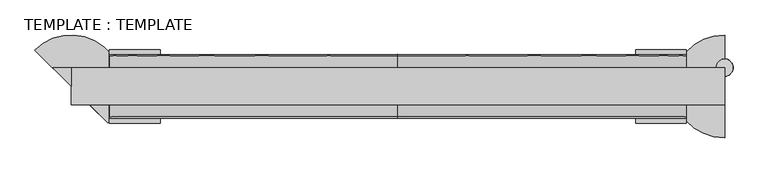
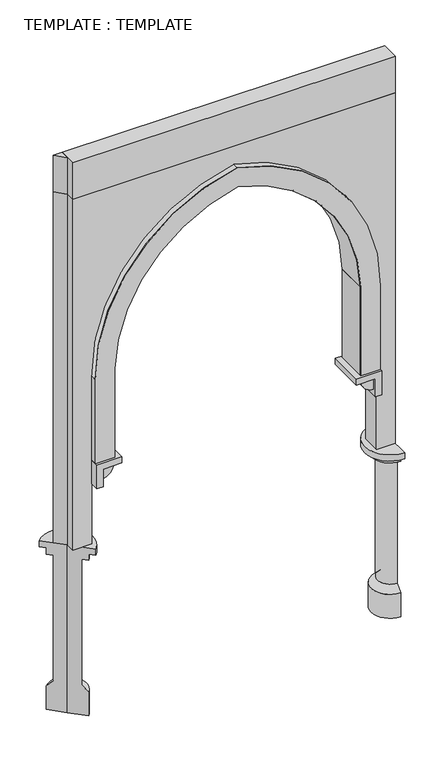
"""IFC4 building model written with IfcOpenShell, lengths in millimetres: plate geometry, TEMPLATE : TEMPLATE."""

from ifc_helpers import new_model, si_unit, point, frame, frame_2d, origin, place, context, project, spatial, polyline, circle_curve, ellipse_curve, trimmed, segment, composite_curve, outline, extrude, source, transform, mapped, element, save
from ifc_brep_helpers import plane_surface, cylinder_surface, revolved_surface, advanced_brep


def template_template_87ff5dd4(model_context):
    return source(origin(), model_context, "Body", "SolidModel", [
        extrude(outline(polyline([(-1250.0, 0.0), (-1321.2450521, 71.2450521), (-1250.0, 71.2450521), (-1250.0, 0.0)])), frame((0.0, 0.0, 4250.0), z_axis=(0.0, 0.0, 1.0), x_axis=(1.0, 0.0, 0.0)), (0.0, 0.0, 1.0), 300.0),
        extrude(outline(polyline([(1250.0, -71.2450521), (-1250.0, -71.2450521), (-1250.0, 71.2450521), (1250.0, 71.2450521), (1250.0, -71.2450521)])), frame((0.0, 0.0, 4250.0), z_axis=(0.0, 0.0, 1.0), x_axis=(1.0, 0.0, 0.0)), (0.0, 0.0, 1.0), 300.0),
        advanced_brep(
        [(1250.0, 38.7797743, 4103.90625), (1250.0, 103.7103299, 4103.90625)],
        [
            (0, 1, circle_curve(frame((1250.0, 71.2450521, 4103.90625), z_axis=(0.0, 0.0, -1.0), x_axis=(-1.0, 0.0, 0.0)), 32.4652778)),
            (1, 0),
            (1, 0, circle_curve(frame((1250.0, 71.2450521, 4103.90625), z_axis=(0.0, 0.0, -1.0), x_axis=(1.0, 0.0, 0.0)), 32.4652778)),
        ],
        [
            plane_surface(frame((1250.0, -122.2362565, 4103.90625), z_axis=(0.0, 0.0, -1.0), x_axis=(-1.0, 0.0, 0.0))),
            plane_surface(frame((1250.0, -122.2362565, 4103.90625), z_axis=(0.0, 0.0, -1.0), x_axis=(1.0, 0.0, 0.0))),
            revolved_surface(trimmed(ellipse_curve(frame((1250.0, 71.2450521, 4103.90625), z_axis=(0.0, 0.0, 1.0), x_axis=(-1.0, 0.0, 0.0)), 32.4652778, 32.4652778), [point((1250.0, 103.7103299, 4103.90625))], [point((1250.0, 38.7797743, 4103.90625))], True, "CARTESIAN"), (1250.0, -122.2362565, 4103.90625), (0.0, -1.0, 0.0)),
        ],
        [
            (0, [[1, 2]]),
            (1, [[3, -2]]),
            (2, [[-1, -3]]),
        ],
    ),
        extrude(outline(composite_curve([segment(trimmed(circle_curve(frame_2d((1250.0, 71.2450521)), 32.4652778), [point((1250.0, 103.7103299))], [point((1250.0, 38.7797743))], False, "CARTESIAN"), True, "CONTINUOUS"), segment(trimmed(circle_curve(frame_2d((1250.0, 71.2450521)), 32.4652778), [point((1250.0, 38.7797743))], [point((1250.0, 103.7103299))], False, "CARTESIAN"), True, "CONTINUOUS")], self_intersect=False)), frame((0.0, 0.0, 1375.0), z_axis=(0.0, 0.0, 1.0), x_axis=(1.0, 0.0, 0.0)), (0.0, 0.0, 1.0), 2728.90625),
        extrude(outline(composite_curve([segment(polyline([(2062.5, -1103.90625), (2062.5, -952.8125), (2789.7201638, -952.8125)]), True, "CONTINUOUS"), segment(trimmed(circle_curve(frame_2d((2770.9553186, 249.8536177)), 1202.8125), [point((2789.7201638, -952.8125))], [point((3947.5313169, 0.0))], True, "CARTESIAN"), True, "CONTINUOUS"), segment(trimmed(circle_curve(frame_2d((2770.9553186, -249.8536177)), 1202.8125), [point((3947.5313169, 0.0))], [point((2789.7201638, 952.8125))], True, "CARTESIAN"), True, "CONTINUOUS"), segment(polyline([(2789.7201638, 952.8125), (2062.5, 952.8125), (2062.5, 1103.90625), (2751.0466695, 1103.90625)]), True, "CONTINUOUS"), segment(trimmed(circle_curve(frame_2d((2770.9553186, -249.8536177)), 1353.90625), [point((2751.0466695, 1103.90625))], [point((4101.6075284, 0.0))], False, "CARTESIAN"), True, "CONTINUOUS"), segment(trimmed(circle_curve(frame_2d((2770.9553186, 249.8536177)), 1353.90625), [point((4101.6075284, 0.0))], [point((2751.0466695, -1103.90625))], False, "CARTESIAN"), True, "CONTINUOUS"), segment(polyline([(2751.0466695, -1103.90625), (2062.5, -1103.90625)]), True, "CONTINUOUS")], self_intersect=False)), frame((0.0, -121.8675781, 0.0), z_axis=(0.0, 1.0, 0.0), x_axis=(0.0, 0.0, 1.0)), (0.0, 0.0, 1.0), 5.0),
        extrude(outline(polyline([(-1250.0, 0.0), (-1321.2450521, 71.2450521), (-1250.0, 71.2450521), (-1250.0, 0.0)])), frame((0.0, 0.0, 1375.0), z_axis=(0.0, 0.0, 1.0), x_axis=(1.0, 0.0, 0.0)), (0.0, 0.0, 1.0), 2875.0),
        extrude(outline(composite_curve([segment(trimmed(circle_curve(frame_2d((2770.9553186, -249.8536177)), 1207.8125), [point((2789.7591277, 957.8125))], [point((3952.642335, 0.0))], False, "CARTESIAN"), True, "CONTINUOUS"), segment(trimmed(circle_curve(frame_2d((2770.9553186, 249.8536177)), 1207.8125), [point((3952.642335, 0.0))], [point((2789.7591277, -957.8125))], False, "CARTESIAN"), True, "CONTINUOUS"), segment(polyline([(2789.7591277, -957.8125), (2789.6812853, -952.813106)]), True, "CONTINUOUS"), segment(trimmed(circle_curve(frame_2d((2770.9553186, 249.8536177)), 1202.8125), [point((2789.6812853, -952.813106))], [point((3947.5313169, 0.0))], True, "CARTESIAN"), True, "CONTINUOUS"), segment(trimmed(circle_curve(frame_2d((2770.9553186, -249.8536177)), 1202.8125), [point((3947.5313169, 0.0))], [point((2789.6812853, 952.813106))], True, "CARTESIAN"), True, "CONTINUOUS"), segment(polyline([(2789.6812853, 952.813106), (2789.7591277, 957.8125)]), True, "CONTINUOUS")], self_intersect=False)), frame((0.0, -116.8675781, 0.0), z_axis=(0.0, 1.0, 0.0), x_axis=(0.0, 0.0, 1.0)), (0.0, 0.0, 1.0), 238.7351563),
        extrude(outline(polyline([(957.8125, -116.8675781), (952.8125, -116.8675781), (952.8125, 121.8675781), (957.8125, 121.8675781), (957.8125, -116.8675781)])), frame((0.0, 0.0, 2062.5), z_axis=(0.0, 0.0, 1.0), x_axis=(1.0, 0.0, 0.0)), (0.0, 0.0, 1.0), 727.2591277),
        extrude(outline(polyline([(-952.8125, -116.8675781), (-957.8125, -116.8675781), (-957.8125, 121.8675781), (-952.8125, 121.8675781), (-952.8125, -116.8675781)])), frame((0.0, 0.0, 2062.5), z_axis=(0.0, 0.0, 1.0), x_axis=(1.0, 0.0, 0.0)), (0.0, 0.0, 1.0), 727.2591277),
        extrude(outline(composite_curve([segment(polyline([(2013.8020833, 1055.2083333), (2013.8020833, 957.8125)]), True, "CONTINUOUS"), segment(trimmed(circle_curve(frame_2d((2013.8020833, 1055.2083333)), 97.3958333), [point((2013.8020833, 957.8125))], [point((1916.40625, 1055.2083333))], False, "CARTESIAN"), True, "CONTINUOUS"), segment(polyline([(1916.40625, 1055.2083333), (2013.8020833, 1055.2083333)]), True, "CONTINUOUS")], self_intersect=False)), frame((0.0, -116.8675781, 0.0), z_axis=(0.0, 1.0, 0.0), x_axis=(0.0, 0.0, 1.0)), (0.0, 0.0, 1.0), 238.7351563),
        extrude(outline(composite_curve([segment(polyline([(2013.8020833, -1055.2083333), (1916.40625, -1055.2083333)]), True, "CONTINUOUS"), segment(trimmed(circle_curve(frame_2d((2013.8020833, -1055.2083333)), 97.3958333), [point((1916.40625, -1055.2083333))], [point((2013.8020833, -957.8125))], False, "CARTESIAN"), True, "CONTINUOUS"), segment(polyline([(2013.8020833, -957.8125), (2013.8020833, -1055.2083333)]), True, "CONTINUOUS")], self_intersect=False)), frame((0.0, -116.8675781, 0.0), z_axis=(0.0, 1.0, 0.0), x_axis=(0.0, 0.0, 1.0)), (0.0, 0.0, 1.0), 238.7351563),
        advanced_brep(
        [(-1110.8841065, -139.1158935, 1375.0), (-1250.0, 0.0, 1375.0), (-1250.0, 0.0, 0.0), (-1146.6961187, -103.3038813, 0.0), (-1146.6961187, -103.3038813, 194.7916667), (-1181.1307458, -68.8692542, 245.4375), (-1181.1307458, -68.8692542, 1273.7083333), (-1146.6961187, -103.3038813, 1273.7083333), (-1146.6961187, -103.3038813, 1324.3541667), (-1110.8841065, -139.1158935, 1324.3541667), (-1389.1158935, 139.1158935, 1375.0), (-1389.1158935, 139.1158935, 1324.3541667), (-1353.3038813, 103.3038813, 1324.3541667), (-1353.3038813, 103.3038813, 1273.7083333), (-1318.8692542, 68.8692542, 1273.7083333), (-1318.8692542, 68.8692542, 245.4375), (-1353.3038813, 103.3038813, 194.7916667), (-1353.3038813, 103.3038813, 0.0)],
        [
            (0, 1),
            (1, 2),
            (2, 3),
            (3, 4),
            (4, 5),
            (5, 6),
            (6, 7),
            (7, 8),
            (8, 9),
            (9, 0),
            (10, 11),
            (11, 12),
            (12, 13),
            (13, 14),
            (14, 15),
            (15, 16),
            (16, 17),
            (17, 2),
            (1, 10),
            (10, 0, circle_curve(frame((-1250.0, 0.0, 1375.0), z_axis=(0.0, 0.0, -1.0), x_axis=(0.7071067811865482, -0.707106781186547, 0.0)), 196.7395833)),
            (9, 11, circle_curve(frame((-1250.0, 0.0, 1324.3541667), z_axis=(0.0, 0.0, 1.0), x_axis=(0.7071067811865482, -0.707106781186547, 0.0)), 196.7395833)),
            (8, 12, circle_curve(frame((-1250.0, 0.0, 1324.3541667), z_axis=(0.0, 0.0, 1.0), x_axis=(0.7071067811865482, -0.707106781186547, 0.0)), 146.09375)),
            (7, 13, circle_curve(frame((-1250.0, 0.0, 1273.7083333), z_axis=(0.0, 0.0, 1.0), x_axis=(0.7071067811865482, -0.707106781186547, 0.0)), 146.09375)),
            (6, 14, circle_curve(frame((-1250.0, 0.0, 1273.7083333), z_axis=(0.0, 0.0, 1.0), x_axis=(0.7071067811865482, -0.707106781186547, 0.0)), 97.3958333)),
            (5, 15, circle_curve(frame((-1250.0, 0.0, 245.4375), z_axis=(0.0, 0.0, 1.0), x_axis=(0.7071067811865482, -0.707106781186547, 0.0)), 97.3958333)),
            (4, 16, circle_curve(frame((-1250.0, 0.0, 194.7916667), z_axis=(0.0, 0.0, 1.0), x_axis=(0.7071067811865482, -0.707106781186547, 0.0)), 146.09375)),
            (3, 17, circle_curve(frame((-1250.0, 0.0, 0.0), z_axis=(0.0, 0.0, 1.0), x_axis=(0.7071067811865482, -0.707106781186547, 0.0)), 146.09375)),
        ],
        [
            plane_surface(frame((-1250.0, 0.0, -1400.0), z_axis=(-0.707106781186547, -0.7071067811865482, 0.0), x_axis=(0.7071067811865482, -0.707106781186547, 0.0))),
            plane_surface(frame((-1250.0, 0.0, -1400.0), z_axis=(-0.7071067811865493, -0.7071067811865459, 0.0), x_axis=(-0.7071067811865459, 0.7071067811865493, 0.0))),
            cylinder_surface(frame((-1250.0, 0.0, -1400.0), z_axis=(0.0, 0.0, 1.0), x_axis=(0.7071067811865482, -0.707106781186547, 0.0)), 196.7395833),
            plane_surface(frame((-1250.0, 0.0, 1324.3541667), z_axis=(0.0, 0.0, -1.0000000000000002), x_axis=(0.7071067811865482, -0.707106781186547, 0.0))),
            cylinder_surface(frame((-1250.0, 0.0, -1400.0), z_axis=(0.0, 0.0, 1.0), x_axis=(0.7071067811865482, -0.707106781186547, 0.0)), 146.09375),
            plane_surface(frame((-1250.0, 0.0, 1273.7083333), z_axis=(0.0, 0.0, -1.0000000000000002), x_axis=(0.7071067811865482, -0.707106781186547, 0.0))),
            cylinder_surface(frame((-1250.0, 0.0, -1400.0), z_axis=(0.0, 0.0, 1.0), x_axis=(0.7071067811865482, -0.707106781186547, 0.0)), 97.3958333),
            revolved_surface(polyline([(-1146.6961187, -103.3038813, 194.7916667), (-1181.1307458, -68.8692542, 245.4375)]), (-1250.0, 0.0, -1400.0), (0.0, 0.0, 1.0)),
            plane_surface(frame((-1250.0, 0.0, 0.0), z_axis=(0.0, 0.0, -1.0000000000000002), x_axis=(0.7071067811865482, -0.707106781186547, 0.0))),
            plane_surface(frame((-1250.0, 0.0, 1375.0), z_axis=(0.0, 0.0, 1.0000000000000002), x_axis=(0.7071067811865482, -0.707106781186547, 0.0))),
        ],
        [
            (0, [[1, 2, 3, 4, 5, 6, 7, 8, 9, 10]]),
            (1, [[11, 12, 13, 14, 15, 16, 17, 18, -2, 19]]),
            (2, [[20, -10, 21, -11]]),
            (3, [[-21, -9, 22, -12]]),
            (4, [[-22, -8, 23, -13]]),
            (5, [[-23, -7, 24, -14]]),
            (6, [[-24, -6, 25, -15]]),
            (7, [[-25, -5, 26, -16]]),
            (4, [[-26, -4, 27, -17]]),
            (8, [[-27, -3, -18]]),
            (9, [[-1, -20, -19]]),
        ],
    ),
        extrude(outline(polyline([(2062.5, 1103.90625), (2062.5, 909.1145833), (2013.8020833, 909.1145833), (2013.8020833, 1055.2083333), (1867.7083333, 1055.2083333), (1867.7083333, 1103.90625), (2062.5, 1103.90625)])), frame((0.0, -141.2165365, 0.0), z_axis=(0.0, 1.0, 0.0), x_axis=(0.0, 0.0, 1.0)), (0.0, 0.0, 1.0), 282.4330729),
        extrude(outline(polyline([(2062.5, -1103.90625), (1867.7083333, -1103.90625), (1867.7083333, -1055.2083333), (2013.8020833, -1055.2083333), (2013.8020833, -909.1145833), (2062.5, -909.1145833), (2062.5, -1103.90625)])), frame((0.0, -141.2165365, 0.0), z_axis=(0.0, 1.0, 0.0), x_axis=(0.0, 0.0, 1.0)), (0.0, 0.0, 1.0), 282.4330729),
        advanced_brep(
        [(1250.0, -196.7395833, 1375.0), (1250.0, -196.7395833, 1324.3541667), (1250.0, -146.09375, 1324.3541667), (1250.0, -146.09375, 1273.7083333), (1250.0, -97.3958333, 1273.7083333), (1250.0, -97.3958333, 245.4375), (1250.0, -146.09375, 194.7916667), (1250.0, -146.09375, 0.0), (1250.0, 0.0, 0.0), (1250.0, 0.0, 1375.0), (1250.0, 196.7395833, 1375.0), (1250.0, 146.09375, 0.0), (1250.0, 146.09375, 194.7916667), (1250.0, 97.3958333, 245.4375), (1250.0, 97.3958333, 1273.7083333), (1250.0, 146.09375, 1273.7083333), (1250.0, 146.09375, 1324.3541667), (1250.0, 196.7395833, 1324.3541667)],
        [
            (0, 1),
            (1, 2),
            (2, 3),
            (3, 4),
            (4, 5),
            (5, 6),
            (6, 7),
            (7, 8),
            (8, 9),
            (9, 0),
            (10, 9),
            (8, 11),
            (11, 12),
            (12, 13),
            (13, 14),
            (14, 15),
            (15, 16),
            (16, 17),
            (17, 10),
            (17, 1, circle_curve(frame((1250.0, 0.0, 1324.3541667), z_axis=(0.0, 0.0, 1.0), x_axis=(0.0, -1.0000000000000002, 0.0)), 196.7395833)),
            (0, 10, circle_curve(frame((1250.0, 0.0, 1375.0), z_axis=(0.0, 0.0, -1.0), x_axis=(0.0, -1.0000000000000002, 0.0)), 196.7395833)),
            (16, 2, circle_curve(frame((1250.0, 0.0, 1324.3541667), z_axis=(0.0, 0.0, 1.0), x_axis=(0.0, -1.0000000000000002, 0.0)), 146.09375)),
            (15, 3, circle_curve(frame((1250.0, 0.0, 1273.7083333), z_axis=(0.0, 0.0, 1.0), x_axis=(0.0, -1.0000000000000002, 0.0)), 146.09375)),
            (14, 4, circle_curve(frame((1250.0, 0.0, 1273.7083333), z_axis=(0.0, 0.0, 1.0), x_axis=(0.0, -1.0000000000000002, 0.0)), 97.3958333)),
            (13, 5, circle_curve(frame((1250.0, 0.0, 245.4375), z_axis=(0.0, 0.0, 1.0), x_axis=(0.0, -1.0000000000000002, 0.0)), 97.3958333)),
            (12, 6, circle_curve(frame((1250.0, 0.0, 194.7916667), z_axis=(0.0, 0.0, 1.0), x_axis=(0.0, -1.0000000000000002, 0.0)), 146.09375)),
            (11, 7, circle_curve(frame((1250.0, 0.0, 0.0), z_axis=(0.0, 0.0, 1.0), x_axis=(0.0, -1.0000000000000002, 0.0)), 146.09375)),
        ],
        [
            plane_surface(frame((1250.0, 0.0, -1400.0), z_axis=(1.0, 0.0, 0.0), x_axis=(0.0, -1.0, 0.0))),
            plane_surface(frame((1250.0, 0.0, -1400.0), z_axis=(1.0, 0.0, 0.0), x_axis=(0.0, 1.0, 0.0))),
            cylinder_surface(frame((1250.0, 0.0, -1400.0), z_axis=(0.0, 0.0, -1.0), x_axis=(0.0, -1.0000000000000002, 0.0)), 196.7395833),
            plane_surface(frame((1250.0, 0.0, 1324.3541667), z_axis=(0.0, 0.0, -1.0), x_axis=(0.0, -1.0, 0.0))),
            cylinder_surface(frame((1250.0, 0.0, -1400.0), z_axis=(0.0, 0.0, -1.0), x_axis=(0.0, -1.0000000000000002, 0.0)), 146.09375),
            plane_surface(frame((1250.0, 0.0, 1273.7083333), z_axis=(0.0, 0.0, -1.0), x_axis=(0.0, -1.0, 0.0))),
            cylinder_surface(frame((1250.0, 0.0, -1400.0), z_axis=(0.0, 0.0, -1.0), x_axis=(0.0, -1.0000000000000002, 0.0)), 97.3958333),
            revolved_surface(polyline([(1250.0, -97.3958333, 245.4375), (1250.0, -146.09375, 194.7916667)]), (1250.0, 0.0, -1400.0), (0.0, 0.0, -1.0)),
            plane_surface(frame((1250.0, 0.0, 0.0), z_axis=(0.0, 0.0, -1.0), x_axis=(0.0, -1.0, 0.0))),
            plane_surface(frame((1250.0, 0.0, 1375.0), z_axis=(0.0, 0.0, 1.0), x_axis=(0.0, -1.0, 0.0))),
        ],
        [
            (0, [[1, 2, 3, 4, 5, 6, 7, 8, 9, 10]]),
            (1, [[11, -9, 12, 13, 14, 15, 16, 17, 18, 19]]),
            (2, [[20, -1, 21, -19]]),
            (3, [[22, -2, -20, -18]]),
            (4, [[23, -3, -22, -17]]),
            (5, [[24, -4, -23, -16]]),
            (6, [[25, -5, -24, -15]]),
            (7, [[26, -6, -25, -14]]),
            (4, [[27, -7, -26, -13]]),
            (8, [[-8, -27, -12]]),
            (9, [[-21, -10, -11]]),
        ],
    ),
        extrude(outline(composite_curve([segment(polyline([(1375.0, 1250.0), (4250.0, 1250.0), (4250.0, -1250.0), (1375.0, -1250.0), (1375.0, -1103.90625), (2790.8639676, -1103.90625)]), True, "CONTINUOUS"), segment(trimmed(circle_curve(frame_2d((2770.9553186, 249.8536177)), 1353.90625), [point((2790.8639676, -1103.90625))], [point((4101.6075284, 0.0))], True, "CARTESIAN"), True, "CONTINUOUS"), segment(trimmed(circle_curve(frame_2d((2770.9553186, -249.8536177)), 1353.90625), [point((4101.6075284, 0.0))], [point((2790.8639676, 1103.90625))], True, "CARTESIAN"), True, "CONTINUOUS"), segment(polyline([(2790.8639676, 1103.90625), (1375.0, 1103.90625), (1375.0, 1250.0)]), True, "CONTINUOUS")], self_intersect=False)), frame((0.0, -71.2450521, 0.0), z_axis=(0.0, 1.0, 0.0), x_axis=(0.0, 0.0, 1.0)), (0.0, 0.0, 1.0), 142.4901042),
        extrude(outline(composite_curve([segment(trimmed(circle_curve(frame_2d((2770.9553186, 249.8536177)), 1353.90625), [point((4101.6075284, 0.0))], [point((2790.8639676, -1103.90625))], False, "CARTESIAN"), True, "CONTINUOUS"), segment(polyline([(2790.8639676, -1103.90625), (2062.5, -1103.90625), (2062.5, -957.8125), (2789.7591277, -957.8125)]), True, "CONTINUOUS"), segment(trimmed(circle_curve(frame_2d((2770.9553186, 249.8536177)), 1207.8125), [point((2789.7591277, -957.8125))], [point((3952.642335, 0.0))], True, "CARTESIAN"), True, "CONTINUOUS"), segment(trimmed(circle_curve(frame_2d((2770.9553186, -249.8536177)), 1207.8125), [point((3952.642335, 0.0))], [point((2789.7591277, 957.8125))], True, "CARTESIAN"), True, "CONTINUOUS"), segment(polyline([(2789.7591277, 957.8125), (2062.5, 957.8125), (2062.5, 1103.90625), (2790.8639676, 1103.90625)]), True, "CONTINUOUS"), segment(trimmed(circle_curve(frame_2d((2770.9553186, -249.8536177)), 1353.90625), [point((2790.8639676, 1103.90625))], [point((4101.6075284, 0.0))], False, "CARTESIAN"), True, "CONTINUOUS")], self_intersect=False)), frame((0.0, 116.8675781, 0.0), z_axis=(0.0, 1.0, 0.0), x_axis=(0.0, 0.0, 1.0)), (0.0, 0.0, 1.0), 5.0),
        extrude(outline(polyline([(-957.8125, 116.8675781), (-957.8125, -116.8675781), (-1103.90625, -116.8675781), (-1103.90625, 116.8675781), (-957.8125, 116.8675781)])), frame((0.0, 0.0, 2062.5), z_axis=(0.0, 0.0, 1.0), x_axis=(1.0, 0.0, 0.0)), (0.0, 0.0, 1.0), 687.5),
        extrude(outline(polyline([(957.8125, 116.8675781), (1103.90625, 116.8675781), (1103.90625, -116.8675781), (957.8125, -116.8675781), (957.8125, 116.8675781)])), frame((0.0, 0.0, 2062.5), z_axis=(0.0, 0.0, 1.0), x_axis=(1.0, 0.0, 0.0)), (0.0, 0.0, 1.0), 687.5),
        extrude(outline(composite_curve([segment(trimmed(circle_curve(frame_2d((2770.9553186, 249.8536177)), 1207.8125), [point((2754.0819214, -957.841014))], [point((3952.642335, 0.0))], True, "CARTESIAN"), True, "CONTINUOUS"), segment(trimmed(circle_curve(frame_2d((2770.9553186, -249.8536177)), 1207.8125), [point((3952.642335, 0.0))], [point((2754.0819214, 957.841014))], True, "CARTESIAN"), True, "CONTINUOUS"), segment(polyline([(2754.0819214, 957.841014), (2752.0409607, 1103.920507)]), True, "CONTINUOUS"), segment(trimmed(circle_curve(frame_2d((2770.9553186, -249.8536177)), 1353.90625), [point((2752.0409607, 1103.920507))], [point((4101.6075284, 0.0))], False, "CARTESIAN"), True, "CONTINUOUS"), segment(trimmed(circle_curve(frame_2d((2770.9553186, 249.8536177)), 1353.90625), [point((4101.6075284, 0.0))], [point((2752.0409607, -1103.920507))], False, "CARTESIAN"), True, "CONTINUOUS"), segment(polyline([(2752.0409607, -1103.920507), (2754.0819214, -957.841014)]), True, "CONTINUOUS")], self_intersect=False)), frame((0.0, -116.8675781, 0.0), z_axis=(0.0, 1.0, 0.0), x_axis=(0.0, 0.0, 1.0)), (0.0, 0.0, 1.0), 233.7351563),
    ])


if __name__ == "__main__":
    model = new_model("IFC4")
    model_context = context("Model", 3, world=origin())
    ifc_project = project(units=[si_unit("LENGTHUNIT", "METRE", prefix="MILLI")], contexts=[model_context])
    site = spatial("IfcSite", under=ifc_project)
    building = spatial("IfcBuilding", under=site)
    placement = place(None, origin())
    template_template_shape = template_template_87ff5dd4(model_context)
    element("IfcPlate", 1, ObjectType="TEMPLATE : TEMPLATE", at=placement, inside=building, context=model_context, shape_type="MappedRepresentation", body=[
        mapped(template_template_shape, transform((0.0, 0.0, 0.0), x_axis=(1.0, 0.0, 0.0), y_axis=(0.0, 1.0, 0.0), z_axis=(0.0, 0.0, 1.0))),
    ])
    save(model, "model.ifc")
